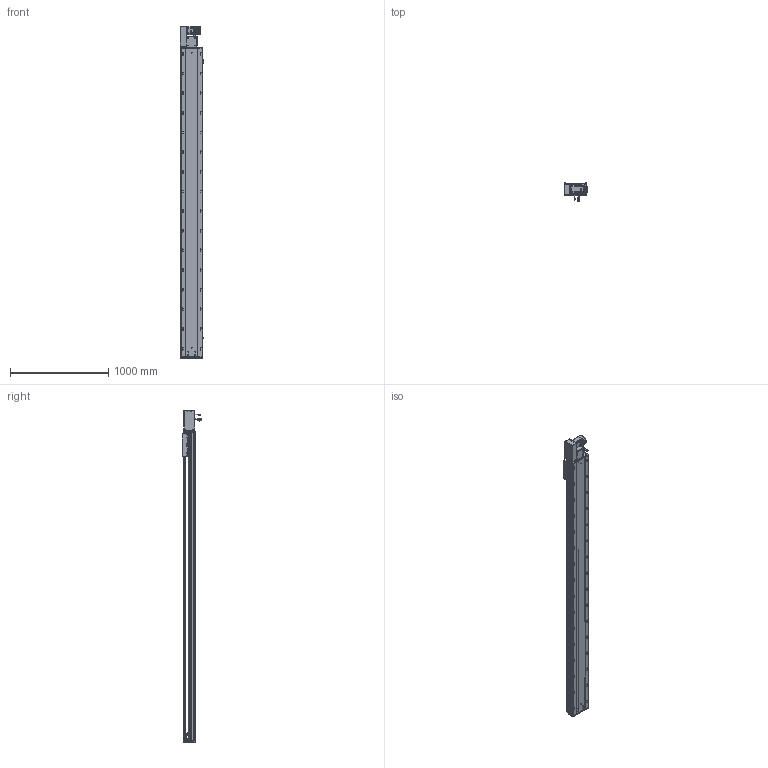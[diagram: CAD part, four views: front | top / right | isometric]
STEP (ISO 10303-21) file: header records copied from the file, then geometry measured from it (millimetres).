
FILE_DESCRIPTION (( 'STEP AP203' ), '1' );
FILE_NAME ('RY220-T-300-LK.SLDASM_2800.step', '2022-07-25T08:16:21', ( '' ), ( '' ), 'SwSTEP 2.0', 'SolidWorks 2016', '' );
FILE_SCHEMA (( 'CONFIG_CONTROL_DESIGN' ));
Length unit declared in the file: millimetre
Products named in the file (14): 滅袉蝶18-15; RY220-T菁釱-300_2800; RY220圉猾敕々湍臏賑輸; 怢湛750W_ECMA-CX0807ES; 110A-T-肮祭謫釱傷裔; RY220-同步轮副支撑座6304×2; RY220翋肮祭謫釱; RY220翋肮祭謫裔啣; RY220-T-300-LK.SLDASM_2800; RY220-俋离672覜茼んえ; RY220-T-蛌殏萇儂假蚾啣(750W); RY220-T-湍謫欶(鍼踢); RY220-T-300-奻裔啣_2800; 覜茼ん672
Assembly tree (18 placements, depth 2):
  RY220-T-300-LK.SLDASM_2800
    RY220-T菁釱-300_2800
    RY220翋肮祭謫釱
    覜茼ん672  x3
    RY220圉猾敕々湍臏賑輸
    RY220-T-300-奻裔啣_2800
    RY220-俋离672覜茼んえ
    滅袉蝶18-15  x3
    RY220翋肮祭謫裔啣  x2
    110A-T-肮祭謫釱傷裔
    怢湛750W_ECMA-CX0807ES
    RY220-T-湍謫欶(鍼踢)
    RY220-T-蛌殏萇儂假蚾啣(750W)
    RY220-同步轮副支撑座6304×2
Bounding box: 239.7 x 198.77 x 3379 mm (x, y, z)
Volume: 23910748.7 mm3; surface area: 7377035.7 mm2
Topology: 19 solids, 19 shells, 2990 faces, 8267 edges, 5178 vertices
Faces by surface type: cylinder 1470, plane 1069, cone 369, bspline 56, sphere 16, torus 10
Entity records: 99619 total; most frequent: CARTESIAN_POINT 28087, ORIENTED_EDGE 14778, DIRECTION 14264, EDGE_CURVE 7389, AXIS2_PLACEMENT_3D 5144, VERTEX_POINT 4802, VECTOR 3976, LINE 3976
